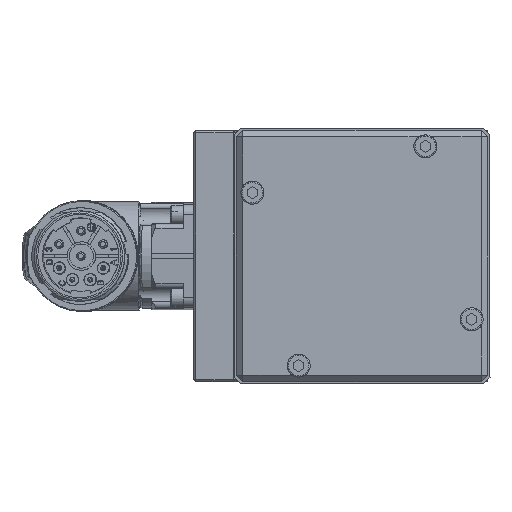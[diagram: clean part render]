
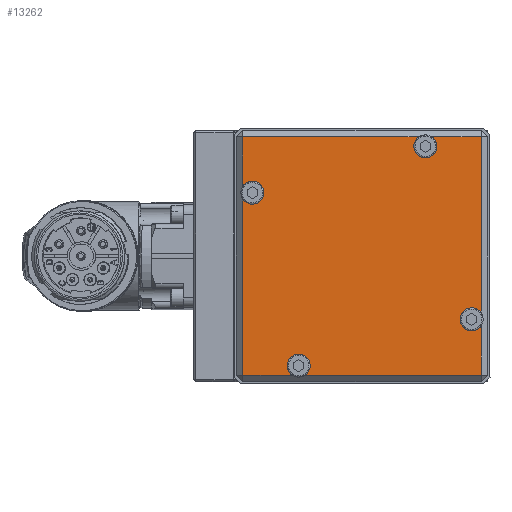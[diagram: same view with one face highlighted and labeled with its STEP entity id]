
A CAD part, left-side view. The second image highlights one B-rep face of the part: STEP entity #13262.
In plain terms, the highlighted planar face has unit normal (-1, 0, 0).
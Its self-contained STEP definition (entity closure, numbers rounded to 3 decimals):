
#1058=LINE('',#19351,#2163);
#1059=LINE('',#19353,#2164);
#1060=LINE('',#19357,#2165);
#1061=LINE('',#19359,#2166);
#1062=LINE('',#19363,#2167);
#1063=LINE('',#19365,#2168);
#1064=LINE('',#19369,#2169);
#1065=LINE('',#19370,#2170);
#2163=VECTOR('',#15868,42.122);
#2164=VECTOR('',#15869,11.872);
#2165=VECTOR('',#15872,42.122);
#2166=VECTOR('',#15873,11.872);
#2167=VECTOR('',#15876,42.122);
#2168=VECTOR('',#15877,11.872);
#2169=VECTOR('',#15880,42.122);
#2170=VECTOR('',#15881,11.872);
#3056=PLANE('',#14100);
#3688=FACE_OUTER_BOUND('',#4499,.T.);
#4499=EDGE_LOOP('',(#9449,#9450,#9451,#9452,#9453,#9454,#9455,#9456,#9457,
#9458,#9459,#9460));
#5244=CIRCLE('',#14098,2.75);
#5245=CIRCLE('',#14101,2.75);
#5246=CIRCLE('',#14102,2.75);
#5247=CIRCLE('',#14103,2.75);
#5847=VERTEX_POINT('',#19344);
#5848=VERTEX_POINT('',#19346);
#5849=VERTEX_POINT('',#19350);
#5850=VERTEX_POINT('',#19352);
#5851=VERTEX_POINT('',#19354);
#5852=VERTEX_POINT('',#19356);
#5853=VERTEX_POINT('',#19358);
#5854=VERTEX_POINT('',#19360);
#5855=VERTEX_POINT('',#19362);
#5856=VERTEX_POINT('',#19364);
#5857=VERTEX_POINT('',#19366);
#5858=VERTEX_POINT('',#19368);
#7215=EDGE_CURVE('',#5848,#5847,#5244,.T.);
#7217=EDGE_CURVE('',#5849,#5847,#1058,.T.);
#7218=EDGE_CURVE('',#5850,#5849,#1059,.T.);
#7219=EDGE_CURVE('',#5850,#5851,#5245,.T.);
#7220=EDGE_CURVE('',#5852,#5851,#1060,.T.);
#7221=EDGE_CURVE('',#5853,#5852,#1061,.T.);
#7222=EDGE_CURVE('',#5853,#5854,#5246,.T.);
#7223=EDGE_CURVE('',#5855,#5854,#1062,.T.);
#7224=EDGE_CURVE('',#5856,#5855,#1063,.T.);
#7225=EDGE_CURVE('',#5856,#5857,#5247,.T.);
#7226=EDGE_CURVE('',#5858,#5857,#1064,.T.);
#7227=EDGE_CURVE('',#5848,#5858,#1065,.T.);
#9449=ORIENTED_EDGE('',*,*,#7217,.F.);
#9450=ORIENTED_EDGE('',*,*,#7218,.F.);
#9451=ORIENTED_EDGE('',*,*,#7219,.T.);
#9452=ORIENTED_EDGE('',*,*,#7220,.F.);
#9453=ORIENTED_EDGE('',*,*,#7221,.F.);
#9454=ORIENTED_EDGE('',*,*,#7222,.T.);
#9455=ORIENTED_EDGE('',*,*,#7223,.F.);
#9456=ORIENTED_EDGE('',*,*,#7224,.F.);
#9457=ORIENTED_EDGE('',*,*,#7225,.T.);
#9458=ORIENTED_EDGE('',*,*,#7226,.F.);
#9459=ORIENTED_EDGE('',*,*,#7227,.F.);
#9460=ORIENTED_EDGE('',*,*,#7215,.T.);
#13262=ADVANCED_FACE('',(#3688),#3056,.T.);
#14098=AXIS2_PLACEMENT_3D('',#19347,#15862,#15863);
#14100=AXIS2_PLACEMENT_3D('',#19349,#15866,#15867);
#14101=AXIS2_PLACEMENT_3D('',#19355,#15870,#15871);
#14102=AXIS2_PLACEMENT_3D('',#19361,#15874,#15875);
#14103=AXIS2_PLACEMENT_3D('',#19367,#15878,#15879);
#15862=DIRECTION('center_axis',(1.,0.,0.));
#15863=DIRECTION('ref_axis',(0.,0.,1.));
#15866=DIRECTION('center_axis',(-1.,0.,0.));
#15867=DIRECTION('ref_axis',(0.,0.,1.));
#15868=DIRECTION('',(0.,0.,1.));
#15869=DIRECTION('',(0.,1.,0.));
#15870=DIRECTION('center_axis',(1.,0.,0.));
#15871=DIRECTION('ref_axis',(0.,1.,0.));
#15872=DIRECTION('',(0.,1.,0.));
#15873=DIRECTION('',(0.,0.,-1.));
#15874=DIRECTION('center_axis',(1.,0.,0.));
#15875=DIRECTION('ref_axis',(0.,0.,
-1.));
#15876=DIRECTION('',(0.,0.,-1.));
#15877=DIRECTION('',(0.,-1.,0.));
#15878=DIRECTION('center_axis',(1.,0.,0.));
#15879=DIRECTION('ref_axis',(0.,-1.,0.));
#15880=DIRECTION('',(0.,-1.,0.));
#15881=DIRECTION('',(0.,0.,1.));
#19344=CARTESIAN_POINT('',(-191.5,28.5,13.622));
#19346=CARTESIAN_POINT('',(-191.5,28.5,16.628));
#19347=CARTESIAN_POINT('Origin',(-191.5,26.197,15.125));
#19349=CARTESIAN_POINT('Origin',(-191.5,0.,0.));
#19350=CARTESIAN_POINT('',(-191.5,28.5,-28.5));
#19351=CARTESIAN_POINT('',(-191.5,28.5,-15.));
#19352=CARTESIAN_POINT('',(-191.5,16.628,-28.5));
#19353=CARTESIAN_POINT('',(-191.5,-15.,-28.5));
#19354=CARTESIAN_POINT('',(-191.5,13.622,-28.5));
#19355=CARTESIAN_POINT('Origin',(-191.5,15.125,-26.197));
#19356=CARTESIAN_POINT('',(-191.5,-28.5,-28.5));
#19357=CARTESIAN_POINT('',(-191.5,-15.,-28.5));
#19358=CARTESIAN_POINT('',(-191.5,-28.5,-16.628));
#19359=CARTESIAN_POINT('',(-191.5,-28.5,15.));
#19360=CARTESIAN_POINT('',(-191.5,-28.5,-13.622));
#19361=CARTESIAN_POINT('Origin',(-191.5,-26.197,-15.125));
#19362=CARTESIAN_POINT('',(-191.5,-28.5,28.5));
#19363=CARTESIAN_POINT('',(-191.5,-28.5,15.));
#19364=CARTESIAN_POINT('',(-191.5,-16.628,28.5));
#19365=CARTESIAN_POINT('',(-191.5,15.,28.5));
#19366=CARTESIAN_POINT('',(-191.5,-13.622,28.5));
#19367=CARTESIAN_POINT('Origin',(-191.5,-15.125,26.197));
#19368=CARTESIAN_POINT('',(-191.5,28.5,28.5));
#19369=CARTESIAN_POINT('',(-191.5,15.,28.5));
#19370=CARTESIAN_POINT('',(-191.5,28.5,-15.));
